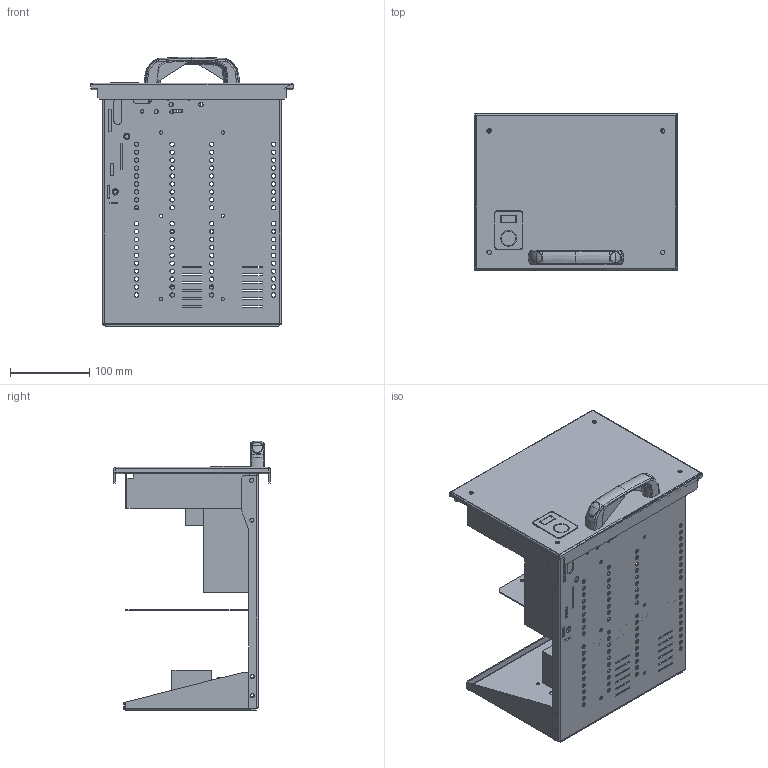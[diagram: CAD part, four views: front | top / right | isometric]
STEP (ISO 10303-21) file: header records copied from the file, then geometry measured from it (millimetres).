
FILE_DESCRIPTION(('CAx-IF Rec.Pracs.---Model Styling and Organization---1.2---2011-12-15','CAx-IF Rec.Pracs.---Geometric and Assembly Validation Properties---4.1---2014-06-16','CAx-IF Rec.Pracs.---PMI Polyline Presentation---2.0---2013-05-24'),'2;1');
FILE_NAME('4М2.stp','2021-05-05T11:47:42+03:00',(''),(''),'STEP Interface 4.4 by CT CoreTechnologie','3D_Evolution4.4 by CT CoreTechnologie','');
FILE_SCHEMA(('AUTOMOTIVE_DESIGN { 1 0 10303 214 1 1 1 1 }'));
Length unit declared in the file: millimetre
Products named in the file (22): 4Ì2; RB.1200.00.00.0_-05; R5M2W...M...BR..._R5M2W4M2BR70; RB.1353.00.00.0_-09; ïîëâèí÷àòûé âòîðè÷íûå; RB.1215.00.00.0 ÑÁ_-04; RB.1215.02.00.0 ÑÁ_-02; RB.1215.02.01.0_-01; RB.1215.00.01.0_-05; RB.1215.01.00.0 ÑÁ_-05; RB.1215.01.01.0_-05; RB.1503.00.02.0_-00; RB.1503.00.03.0_123; PF 7x14 RAMmcc 2.0_1x2_; AC00C061_AC00C061; Ì6õ12-A5100231_straight; âòû÷íûå; áëîêèðîâêà ìåõàíèçì; êíîïêà; 4.444.001; PR.DT477.100.02; PR.DT477.100.01
Assembly tree (22 placements, depth 4):
  4Ì2
    RB.1200.00.00.0_-05
    R5M2W...M...BR..._R5M2W4M2BR70
      RB.1353.00.00.0_-09
    ïîëâèí÷àòûé âòîðè÷íûå
    RB.1215.00.00.0 ÑÁ_-04
      RB.1215.02.00.0 ÑÁ_-02
        RB.1215.02.01.0_-01
      RB.1215.00.01.0_-05
      RB.1215.01.00.0 ÑÁ_-05
        RB.1215.01.01.0_-05
        RB.1503.00.02.0_-00
        RB.1503.00.03.0_123
        PF 7x14 RAMmcc 2.0_1x2_
        AC00C061_AC00C061
        Ì6õ12-A5100231_straight
    âòû÷íûå
    áëîêèðîâêà ìåõàíèçì
    êíîïêà
    4.444.001
      PR.DT477.100.02  x2
      PR.DT477.100.01
Bounding box: 255.62 x 197.2 x 340.14 mm (x, y, z)
Surface area: 635900.9 mm2 (no closed solid volume)
Topology: 0 solids, 23 shells, 1993 faces, 5285 edges, 3320 vertices
Faces by surface type: plane 730, bspline 666, cylinder 597
Entity records: 95276 total; most frequent: CARTESIAN_POINT 31893, ORIENTED_EDGE 10048, DIRECTION 9540, EDGE_CURVE 5025, AXIS2_PLACEMENT_3D 3468, VERTEX_POINT 3182, VECTOR 2604, LINE 2604
